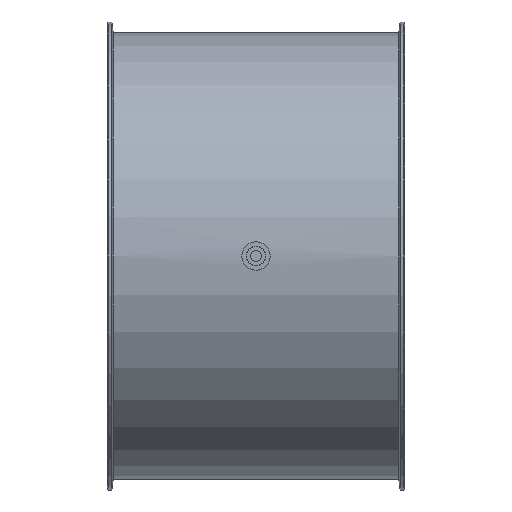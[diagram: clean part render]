
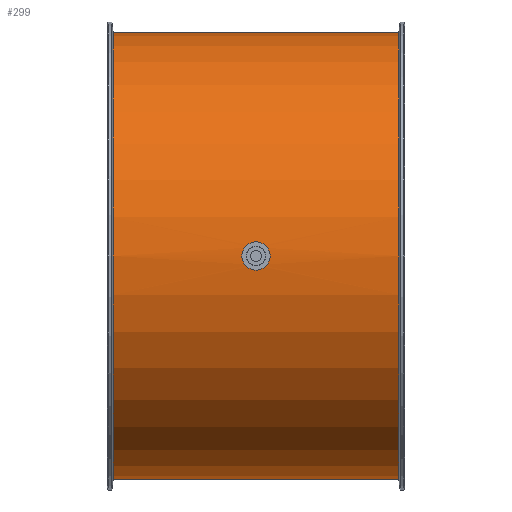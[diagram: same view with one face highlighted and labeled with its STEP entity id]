
A CAD part, front view. The second image highlights one B-rep face of the part: STEP entity #299.
In plain terms, the highlighted cylindrical face has radius 301 mm (diameter 602 mm), a full revolution.
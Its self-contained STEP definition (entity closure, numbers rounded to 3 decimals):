
#185=B_SPLINE_CURVE_WITH_KNOTS('',3,(#1890,#1891,#1892,#1893,#1894,#1895,
#1896,#1897,#1898,#1899,#1900,#1901,#1902,#1903,#1904,#1905,#1906,#1907),
 .UNSPECIFIED.,.T.,.F.,(2,2,2,2,2,2,2,2,2,2,2),(-0.125,0.,0.125,0.25,
0.375,0.5,0.625,0.75,0.875,1.,1.125),.UNSPECIFIED.);
#186=B_SPLINE_CURVE_WITH_KNOTS('',3,(#1909,#1910,#1911,#1912,#1913,#1914,
#1915,#1916,#1917,#1918,#1919,#1920,#1921,#1922,#1923,#1924,#1925,#1926),
 .UNSPECIFIED.,.T.,.F.,(2,2,2,2,2,2,2,2,2,2,2),(-0.125,0.,0.125,0.25,
0.375,0.5,0.625,0.75,0.875,1.,1.125),.UNSPECIFIED.);
#248=CYLINDRICAL_SURFACE('',#1327,301.);
#299=ADVANCED_FACE('',(#443,#444,#445,#446),#248,.T.);
#443=FACE_BOUND('',#597,.T.);
#444=FACE_BOUND('',#598,.T.);
#445=FACE_BOUND('',#599,.T.);
#446=FACE_BOUND('',#600,.T.);
#597=EDGE_LOOP('',(#769));
#598=EDGE_LOOP('',(#770));
#599=EDGE_LOOP('',(#771));
#600=EDGE_LOOP('',(#772));
#769=ORIENTED_EDGE('',*,*,#1100,.F.);
#770=ORIENTED_EDGE('',*,*,#1102,.F.);
#771=ORIENTED_EDGE('',*,*,#1103,.F.);
#772=ORIENTED_EDGE('',*,*,#1104,.F.);
#993=VERTEX_POINT('',#1883);
#995=VERTEX_POINT('',#1888);
#996=VERTEX_POINT('',#1908);
#997=VERTEX_POINT('',#1927);
#1100=EDGE_CURVE('',#993,#993,#1223,.T.);
#1102=EDGE_CURVE('',#995,#995,#1225,.T.);
#1103=EDGE_CURVE('',#996,#996,#185,.T.);
#1104=EDGE_CURVE('',#997,#997,#186,.T.);
#1223=CIRCLE('',#1322,301.);
#1225=CIRCLE('',#1325,301.);
#1322=AXIS2_PLACEMENT_3D('',#1882,#1530,#1531);
#1325=AXIS2_PLACEMENT_3D('',#1887,#1536,#1537);
#1327=AXIS2_PLACEMENT_3D('',#1928,#1540,#1541);
#1530=DIRECTION('',(1.,0.,0.));
#1531=DIRECTION('',(0.,0.,-1.));
#1536=DIRECTION('',(-1.,0.,0.));
#1537=DIRECTION('',(0.,0.,1.));
#1540=DIRECTION('',(1.,0.,0.));
#1541=DIRECTION('',(0.,0.,-1.));
#1882=CARTESIAN_POINT('',(192.133,-109.,125.));
#1883=CARTESIAN_POINT('',(192.133,-109.,-176.));
#1887=CARTESIAN_POINT('',(-192.133,-109.,125.));
#1888=CARTESIAN_POINT('',(-192.133,-109.,426.));
#1890=CARTESIAN_POINT('',(3.436,191.719,112.));
#1891=CARTESIAN_POINT('',(-3.436,191.719,112.));
#1892=CARTESIAN_POINT('',(-6.795,191.786,113.41));
#1893=CARTESIAN_POINT('',(-11.591,191.933,118.207));
#1894=CARTESIAN_POINT('',(-12.998,192.,121.601));
#1895=CARTESIAN_POINT('',(-13.002,192.,128.385));
#1896=CARTESIAN_POINT('',(-11.623,191.934,131.76));
#1897=CARTESIAN_POINT('',(-6.771,191.786,136.616));
#1898=CARTESIAN_POINT('',(-3.398,191.719,137.999));
#1899=CARTESIAN_POINT('',(3.389,191.719,138.001));
#1900=CARTESIAN_POINT('',(6.784,191.786,136.596));
#1901=CARTESIAN_POINT('',(11.583,191.933,131.806));
#1902=CARTESIAN_POINT('',(12.997,192.,128.443));
#1903=CARTESIAN_POINT('',(13.003,192.,121.583));
#1904=CARTESIAN_POINT('',(11.598,191.933,118.217));
#1905=CARTESIAN_POINT('',(6.802,191.786,113.413));
#1906=CARTESIAN_POINT('',(3.436,191.719,112.));
#1907=CARTESIAN_POINT('',(-3.436,191.719,112.));
#1908=CARTESIAN_POINT('',(0.,191.719,112.));
#1909=CARTESIAN_POINT('',(-3.436,-409.719,112.));
#1910=CARTESIAN_POINT('',(3.436,-409.719,112.));
#1911=CARTESIAN_POINT('',(6.795,-409.786,113.41));
#1912=CARTESIAN_POINT('',(11.591,-409.933,118.207));
#1913=CARTESIAN_POINT('',(12.998,-410.,121.601));
#1914=CARTESIAN_POINT('',(13.002,-410.,128.385));
#1915=CARTESIAN_POINT('',(11.623,-409.934,131.76));
#1916=CARTESIAN_POINT('',(6.771,-409.786,136.616));
#1917=CARTESIAN_POINT('',(3.398,-409.719,137.999));
#1918=CARTESIAN_POINT('',(-3.389,-409.719,138.001));
#1919=CARTESIAN_POINT('',(-6.784,-409.786,136.596));
#1920=CARTESIAN_POINT('',(-11.583,-409.933,131.806));
#1921=CARTESIAN_POINT('',(-12.997,-410.,128.443));
#1922=CARTESIAN_POINT('',(-13.003,-410.,121.583));
#1923=CARTESIAN_POINT('',(-11.598,-409.933,118.217));
#1924=CARTESIAN_POINT('',(-6.802,-409.786,113.413));
#1925=CARTESIAN_POINT('',(-3.436,-409.719,112.));
#1926=CARTESIAN_POINT('',(3.436,-409.719,112.));
#1927=CARTESIAN_POINT('',(0.,-409.719,112.));
#1928=CARTESIAN_POINT('',(-200.,-109.,125.));
